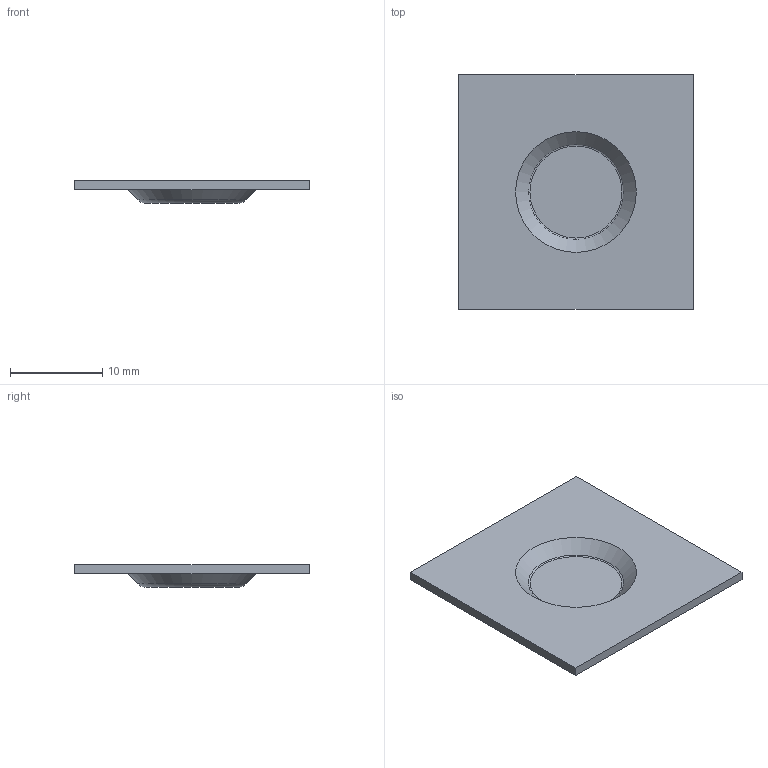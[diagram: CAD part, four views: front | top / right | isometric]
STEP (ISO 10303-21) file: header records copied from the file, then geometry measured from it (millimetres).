
FILE_DESCRIPTION((''),'1');
FILE_NAME('C:/Users/ericfrey/Desktop/407-5925-00 REV 02 DIMPLE.stp', '2015-02-24T23:24:05',(''), (''), 'KCM Version 1.1.1182.0', 'Kubotek KeyCreator', '');
FILE_SCHEMA(('AUTOMOTIVE_DESIGN'));
Length unit declared in the file: inch
Bounding box: 25.4 x 25.39 x 2.44 mm (x, y, z)
Volume: 660.1 mm3; surface area: 1433.3 mm2
Topology: 1 solids, 1 shells, 12 faces, 26 edges, 18 vertices
Faces by surface type: plane 8, cone 2, torus 2
Entity records: 343 total; most frequent: DIRECTION 56, CARTESIAN_POINT 53, ORIENTED_EDGE 52, EDGE_CURVE 26, AXIS2_PLACEMENT_3D 21, VERTEX_POINT 18, VECTOR 14, LINE 14
